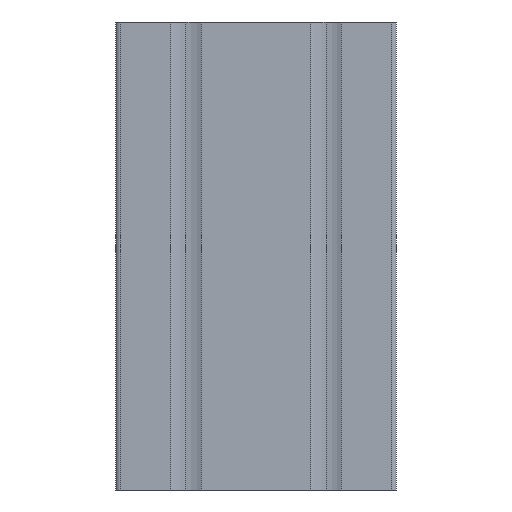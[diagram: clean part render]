
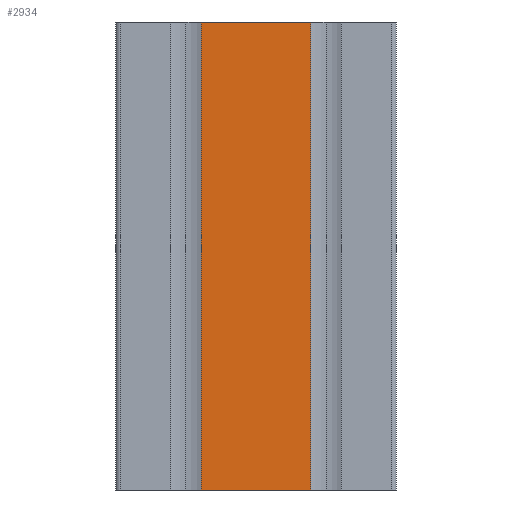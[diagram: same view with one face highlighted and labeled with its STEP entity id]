
A CAD part, left-side view. The second image highlights one B-rep face of the part: STEP entity #2934.
In plain terms, the highlighted planar face has unit normal (-1, 0, 0).
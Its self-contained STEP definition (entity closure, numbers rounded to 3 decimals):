
#62 = VECTOR ( 'NONE', #2176, 1000. ) ;
#220 = CARTESIAN_POINT ( 'NONE',  ( -30., 0., 50. ) ) ;
#244 = LINE ( 'NONE', #1196, #1167 ) ;
#316 = CARTESIAN_POINT ( 'NONE',  ( -30., -11.75, -50. ) ) ;
#417 = VERTEX_POINT ( 'NONE', #1637 ) ;
#620 = PLANE ( 'NONE',  #3297 ) ;
#649 = CARTESIAN_POINT ( 'NONE',  ( -30., -11.75, -50. ) ) ;
#693 = LINE ( 'NONE', #649, #62 ) ;
#764 = VERTEX_POINT ( 'NONE', #2663 ) ;
#1008 = DIRECTION ( 'NONE',  ( 1., 0., 0. ) ) ;
#1015 = EDGE_CURVE ( 'NONE', #2135, #417, #693, .T. ) ;
#1118 = VERTEX_POINT ( 'NONE', #4773 ) ;
#1167 = VECTOR ( 'NONE', #4148, 1000. ) ;
#1196 = CARTESIAN_POINT ( 'NONE',  ( -30., 11.75, -50. ) ) ;
#1253 = VECTOR ( 'NONE', #2674, 1000. ) ;
#1373 = FACE_OUTER_BOUND ( 'NONE', #3216, .T. ) ;
#1399 = ORIENTED_EDGE ( 'NONE', *, *, #4539, .F. ) ;
#1525 = ORIENTED_EDGE ( 'NONE', *, *, #4411, .F. ) ;
#1637 = CARTESIAN_POINT ( 'NONE',  ( -30., -11.75, 50. ) ) ;
#2135 = VERTEX_POINT ( 'NONE', #316 ) ;
#2176 = DIRECTION ( 'NONE',  ( 0., 0., 1. ) ) ;
#2492 = DIRECTION ( 'NONE',  ( 0., 0., -1. ) ) ;
#2570 = ORIENTED_EDGE ( 'NONE', *, *, #4465, .T. ) ;
#2663 = CARTESIAN_POINT ( 'NONE',  ( -30., 11.75, 50. ) ) ;
#2674 = DIRECTION ( 'NONE',  ( 0., 1., 0. ) ) ;
#2826 = CARTESIAN_POINT ( 'NONE',  ( -30., 0., -50. ) ) ;
#2934 = ADVANCED_FACE ( 'NONE', ( #1373 ), #620, .F. ) ;
#3216 = EDGE_LOOP ( 'NONE', ( #2570, #1399, #1525, #3992 ) ) ;
#3262 = VECTOR ( 'NONE', #3323, 1000. ) ;
#3297 = AXIS2_PLACEMENT_3D ( 'NONE', #2826, #1008, #2492 ) ;
#3323 = DIRECTION ( 'NONE',  ( 0., 1., 0. ) ) ;
#3992 = ORIENTED_EDGE ( 'NONE', *, *, #1015, .T. ) ;
#4030 = LINE ( 'NONE', #4419, #3262 ) ;
#4148 = DIRECTION ( 'NONE',  ( 0., 0., 1. ) ) ;
#4411 = EDGE_CURVE ( 'NONE', #2135, #1118, #4030, .T. ) ;
#4419 = CARTESIAN_POINT ( 'NONE',  ( -30., 0., -50. ) ) ;
#4465 = EDGE_CURVE ( 'NONE', #417, #764, #4573, .T. ) ;
#4539 = EDGE_CURVE ( 'NONE', #1118, #764, #244, .T. ) ;
#4573 = LINE ( 'NONE', #220, #1253 ) ;
#4773 = CARTESIAN_POINT ( 'NONE',  ( -30., 11.75, -50. ) ) ;
